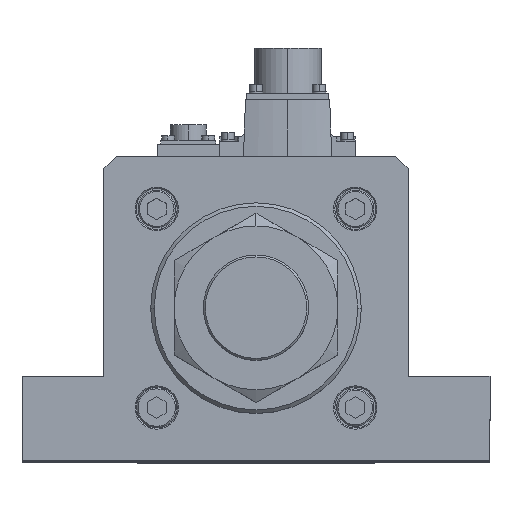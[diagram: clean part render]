
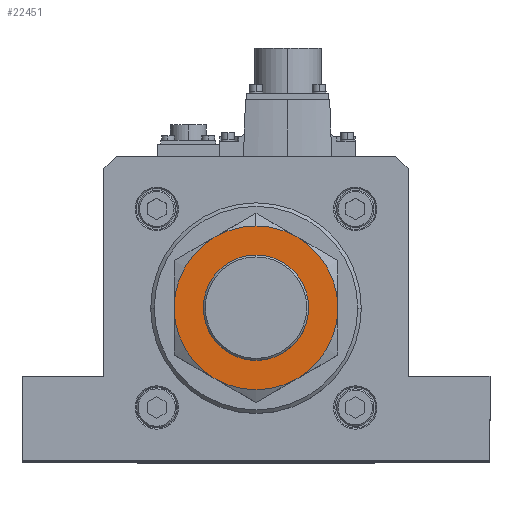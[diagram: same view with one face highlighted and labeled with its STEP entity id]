
A CAD part, top view. The second image highlights one B-rep face of the part: STEP entity #22451.
In plain terms, the highlighted planar face has unit normal (0, 0, 1).
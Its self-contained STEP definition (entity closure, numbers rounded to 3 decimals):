
#1370 = EDGE_CURVE ( 'NONE', #21077, #13595, #1976, .T. ) ;
#1976 = CIRCLE ( 'NONE', #28124, 22.5 ) ;
#2771 = FACE_BOUND ( 'NONE', #9632, .T. ) ;
#3253 = DIRECTION ( 'NONE',  ( 0., 0., -1. ) ) ;
#3469 = CARTESIAN_POINT ( 'NONE',  ( 0., 0., 27. ) ) ;
#3684 = CIRCLE ( 'NONE', #32072, 35. ) ;
#3726 = EDGE_CURVE ( 'NONE', #5822, #8685, #32105, .T. ) ;
#4659 = CARTESIAN_POINT ( 'NONE',  ( 0., 0., 27. ) ) ;
#4791 = CIRCLE ( 'NONE', #26749, 35. ) ;
#5063 = DIRECTION ( 'NONE',  ( 0., 0., -1. ) ) ;
#5822 = VERTEX_POINT ( 'NONE', #39544 ) ;
#5982 = CARTESIAN_POINT ( 'NONE',  ( 0., 0., 27. ) ) ;
#6580 = DIRECTION ( 'NONE',  ( 1., 0., 0. ) ) ;
#7370 = ORIENTED_EDGE ( 'NONE', *, *, #24874, .F. ) ;
#7959 = AXIS2_PLACEMENT_3D ( 'NONE', #8376, #8913, #29910 ) ;
#8376 = CARTESIAN_POINT ( 'NONE',  ( 0., 0., 27. ) ) ;
#8454 = CARTESIAN_POINT ( 'NONE',  ( -22.5, 0., 27. ) ) ;
#8685 = VERTEX_POINT ( 'NONE', #29575 ) ;
#8738 = CARTESIAN_POINT ( 'NONE',  ( 22.5, 0., 27. ) ) ;
#8913 = DIRECTION ( 'NONE',  ( 0., 0., -1. ) ) ;
#9005 = ORIENTED_EDGE ( 'NONE', *, *, #38974, .F. ) ;
#9326 = PLANE ( 'NONE',  #24254 ) ;
#9380 = EDGE_CURVE ( 'NONE', #39609, #18032, #27102, .T. ) ;
#9632 = EDGE_LOOP ( 'NONE', ( #16322, #9005 ) ) ;
#11378 = CARTESIAN_POINT ( 'NONE',  ( -35., 0., 27. ) ) ;
#11464 = CARTESIAN_POINT ( 'NONE',  ( 0., 0., 27. ) ) ;
#12516 = EDGE_CURVE ( 'NONE', #13486, #31210, #4791, .T. ) ;
#12596 = AXIS2_PLACEMENT_3D ( 'NONE', #11464, #5063, #20308 ) ;
#13093 = CARTESIAN_POINT ( 'NONE',  ( 17.5, -30.311, 27. ) ) ;
#13486 = VERTEX_POINT ( 'NONE', #11378 ) ;
#13503 = DIRECTION ( 'NONE',  ( 0., 0., -1. ) ) ;
#13595 = VERTEX_POINT ( 'NONE', #8738 ) ;
#14972 = CARTESIAN_POINT ( 'NONE',  ( -17.5, 30.311, 27. ) ) ;
#15105 = AXIS2_PLACEMENT_3D ( 'NONE', #21183, #3253, #30404 ) ;
#16013 = ORIENTED_EDGE ( 'NONE', *, *, #34590, .F. ) ;
#16322 = ORIENTED_EDGE ( 'NONE', *, *, #1370, .F. ) ;
#16755 = ORIENTED_EDGE ( 'NONE', *, *, #12516, .F. ) ;
#18032 = VERTEX_POINT ( 'NONE', #30664 ) ;
#18620 = CIRCLE ( 'NONE', #18713, 35. ) ;
#18645 = DIRECTION ( 'NONE',  ( 1., 0., 0. ) ) ;
#18713 = AXIS2_PLACEMENT_3D ( 'NONE', #4659, #20039, #35640 ) ;
#18722 = DIRECTION ( 'NONE',  ( 0., 1., 0. ) ) ;
#19178 = AXIS2_PLACEMENT_3D ( 'NONE', #28759, #35275, #22719 ) ;
#20039 = DIRECTION ( 'NONE',  ( 0., 0., -1. ) ) ;
#20308 = DIRECTION ( 'NONE',  ( 0., 1., 0. ) ) ;
#20544 = CIRCLE ( 'NONE', #19178, 35. ) ;
#21077 = VERTEX_POINT ( 'NONE', #8454 ) ;
#21183 = CARTESIAN_POINT ( 'NONE',  ( 0., 0., 27. ) ) ;
#21249 = DIRECTION ( 'NONE',  ( 0., 0., 1. ) ) ;
#21552 = DIRECTION ( 'NONE',  ( 0., 0., 1. ) ) ;
#22071 = EDGE_LOOP ( 'NONE', ( #34791, #29782, #22630, #7370, #16755, #16013, #31438 ) ) ;
#22451 = ADVANCED_FACE ( 'NONE', ( #29933, #2771 ), #9326, .T. ) ;
#22630 = ORIENTED_EDGE ( 'NONE', *, *, #30947, .F. ) ;
#22719 = DIRECTION ( 'NONE',  ( 0., 1., 0. ) ) ;
#22819 = CIRCLE ( 'NONE', #31223, 22.5 ) ;
#24254 = AXIS2_PLACEMENT_3D ( 'NONE', #3469, #21249, #24298 ) ;
#24298 = DIRECTION ( 'NONE',  ( 1., 0., 0. ) ) ;
#24874 = EDGE_CURVE ( 'NONE', #31210, #37856, #18620, .T. ) ;
#25937 = DIRECTION ( 'NONE',  ( 0., 1., 0. ) ) ;
#26157 = EDGE_CURVE ( 'NONE', #8685, #39609, #28377, .T. ) ;
#26749 = AXIS2_PLACEMENT_3D ( 'NONE', #32221, #13503, #25937 ) ;
#27102 = CIRCLE ( 'NONE', #7959, 35. ) ;
#28124 = AXIS2_PLACEMENT_3D ( 'NONE', #28201, #21552, #6580 ) ;
#28201 = CARTESIAN_POINT ( 'NONE',  ( 0., 0., 27. ) ) ;
#28377 = CIRCLE ( 'NONE', #12596, 35. ) ;
#28759 = CARTESIAN_POINT ( 'NONE',  ( 0., 0., 27. ) ) ;
#29575 = CARTESIAN_POINT ( 'NONE',  ( 35., 0., 27. ) ) ;
#29782 = ORIENTED_EDGE ( 'NONE', *, *, #3726, .F. ) ;
#29910 = DIRECTION ( 'NONE',  ( 0., 1., 0. ) ) ;
#29933 = FACE_OUTER_BOUND ( 'NONE', #22071, .T. ) ;
#30404 = DIRECTION ( 'NONE',  ( 0., 1., 0. ) ) ;
#30664 = CARTESIAN_POINT ( 'NONE',  ( -17.5, -30.311, 27. ) ) ;
#30876 = CARTESIAN_POINT ( 'NONE',  ( 0., 0., 27. ) ) ;
#30947 = EDGE_CURVE ( 'NONE', #37856, #5822, #20544, .T. ) ;
#31210 = VERTEX_POINT ( 'NONE', #14972 ) ;
#31223 = AXIS2_PLACEMENT_3D ( 'NONE', #5982, #39592, #18645 ) ;
#31438 = ORIENTED_EDGE ( 'NONE', *, *, #9380, .F. ) ;
#32072 = AXIS2_PLACEMENT_3D ( 'NONE', #30876, #37020, #18722 ) ;
#32105 = CIRCLE ( 'NONE', #15105, 35. ) ;
#32221 = CARTESIAN_POINT ( 'NONE',  ( 0., 0., 27. ) ) ;
#34590 = EDGE_CURVE ( 'NONE', #18032, #13486, #3684, .T. ) ;
#34791 = ORIENTED_EDGE ( 'NONE', *, *, #26157, .F. ) ;
#35275 = DIRECTION ( 'NONE',  ( 0., 0., -1. ) ) ;
#35640 = DIRECTION ( 'NONE',  ( 0., 1., 0. ) ) ;
#37020 = DIRECTION ( 'NONE',  ( 0., 0., -1. ) ) ;
#37856 = VERTEX_POINT ( 'NONE', #38941 ) ;
#38941 = CARTESIAN_POINT ( 'NONE',  ( 0., 35., 27. ) ) ;
#38974 = EDGE_CURVE ( 'NONE', #13595, #21077, #22819, .T. ) ;
#39544 = CARTESIAN_POINT ( 'NONE',  ( 17.5, 30.311, 27. ) ) ;
#39592 = DIRECTION ( 'NONE',  ( 0., 0., 1. ) ) ;
#39609 = VERTEX_POINT ( 'NONE', #13093 ) ;
